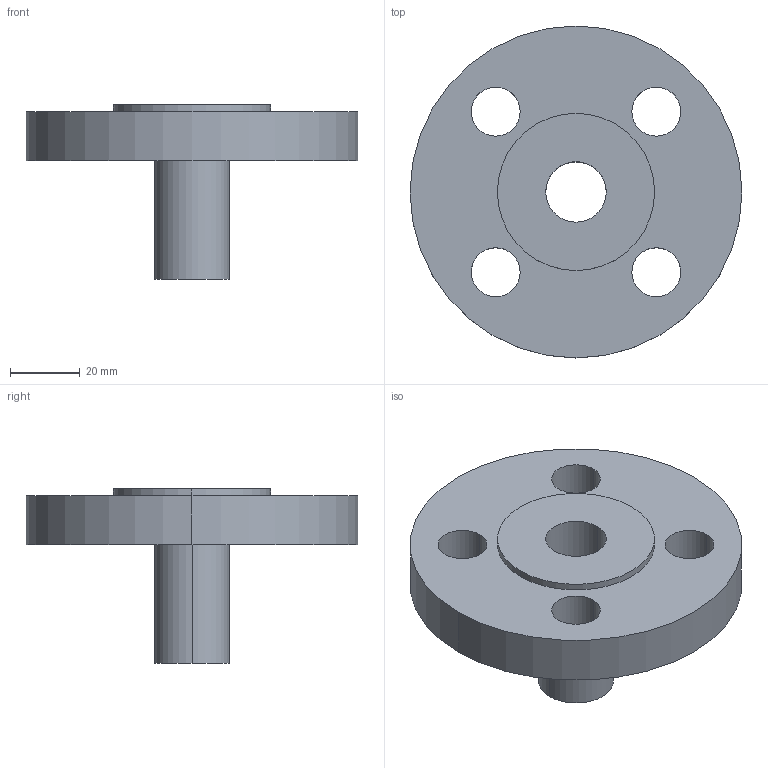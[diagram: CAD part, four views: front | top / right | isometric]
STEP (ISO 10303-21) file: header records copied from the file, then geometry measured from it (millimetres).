
FILE_DESCRIPTION (( 'STEP AP214' ), '1' );
FILE_NAME ('PN40 DN15 Type 02 in 33 - (Type A Face).STEP', '2018-12-29T15:10:08', ( '' ), ( '' ), 'SwSTEP 2.0', 'SolidWorks 2019', '' );
FILE_SCHEMA (( 'AUTOMOTIVE_DESIGN' ));
Length unit declared in the file: millimetre
Products named in the file (1): PN40 DN15 Type 02 in 33 - (Type A Face)
Bounding box: 95 x 95 x 50 mm (x, y, z)
Volume: 92221.5 mm3; surface area: 28394.8 mm2
Topology: 2 solids, 2 shells, 27 faces, 62 edges, 40 vertices
Faces by surface type: cylinder 18, plane 5, cone 4
Entity records: 851 total; most frequent: DIRECTION 158, CARTESIAN_POINT 130, ORIENTED_EDGE 124, AXIS2_PLACEMENT_3D 68, EDGE_CURVE 62, VERTEX_POINT 40, CIRCLE 40, EDGE_LOOP 40
